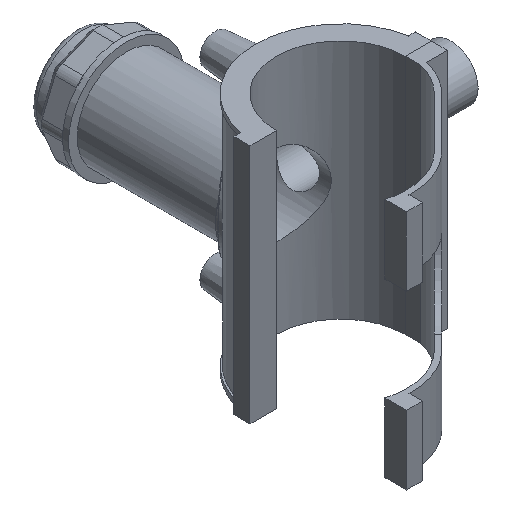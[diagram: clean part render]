
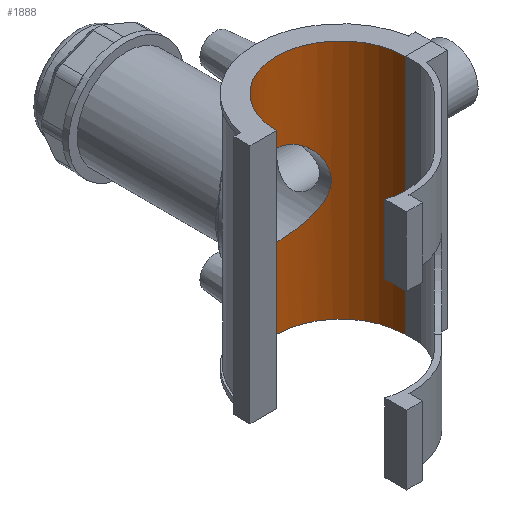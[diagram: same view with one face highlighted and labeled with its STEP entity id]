
A CAD part, isometric view. The second image highlights one B-rep face of the part: STEP entity #1888.
In plain terms, the highlighted cylindrical face has radius 31.55 mm (diameter 63.1 mm), a partial arc.
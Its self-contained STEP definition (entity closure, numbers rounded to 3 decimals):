
#50=FACE_BOUND('',#623,.T.);
#51=B_SPLINE_CURVE_WITH_KNOTS('',3,(#2711,#2712,#2713,#2714,#2715,#2716,
#2717,#2718,#2719,#2720,#2721,#2722,#2723,#2724,#2725,#2726,#2727,#2728,
#2729,#2730,#2731,#2732,#2733,#2734,#2735,#2736,#2737,#2738,#2739,#2740,
#2741,#2742,#2743,#2744,#2745,#2746,#2747,#2748,#2749,#2750,#2751,#2752,
#2753,#2754,#2755,#2756,#2757,#2758,#2759,#2760),.UNSPECIFIED.,.F.,.F.,
(4,2,2,2,2,2,2,2,2,2,2,2,2,2,2,2,2,2,2,2,2,2,2,2,4),(0.,0.389,
0.779,1.168,1.558,1.944,2.33,
2.716,3.102,3.488,3.875,4.261,
4.647,5.036,5.426,5.815,6.204,
6.594,6.983,7.373,7.762,8.148,
8.534,8.92,9.307),.UNSPECIFIED.);
#52=B_SPLINE_CURVE_WITH_KNOTS('',3,(#2761,#2762,#2763,#2764,#2765,#2766,
#2767,#2768,#2769,#2770,#2771,#2772,#2773,#2774,#2775,#2776,#2777,#2778),
 .UNSPECIFIED.,.F.,.F.,(4,2,2,2,2,2,2,2,4),(9.307,9.693,
10.079,10.465,10.851,11.241,11.63,
12.019,12.409),.UNSPECIFIED.);
#172=LINE('',#3656,#328);
#173=LINE('',#3660,#329);
#328=VECTOR('',#2543,10.);
#329=VECTOR('',#2546,10.);
#412=CYLINDRICAL_SURFACE('',#2095,31.55);
#501=FACE_OUTER_BOUND('',#622,.T.);
#622=EDGE_LOOP('',(#1595,#1596,#1597,#1598));
#623=EDGE_LOOP('',(#1599,#1600));
#719=CIRCLE('',#2092,31.55);
#720=CIRCLE('',#2094,31.55);
#739=VERTEX_POINT('',#2708);
#740=VERTEX_POINT('',#2710);
#867=VERTEX_POINT('',#3650);
#869=VERTEX_POINT('',#3654);
#870=VERTEX_POINT('',#3658);
#871=VERTEX_POINT('',#3659);
#921=EDGE_CURVE('',#740,#739,#51,.T.);
#922=EDGE_CURVE('',#739,#740,#52,.T.);
#1115=EDGE_CURVE('',#867,#869,#172,.T.);
#1116=EDGE_CURVE('',#870,#871,#173,.T.);
#1122=EDGE_CURVE('',#867,#871,#719,.T.);
#1123=EDGE_CURVE('',#870,#869,#720,.T.);
#1595=ORIENTED_EDGE('',*,*,#1116,.T.);
#1596=ORIENTED_EDGE('',*,*,#1122,.F.);
#1597=ORIENTED_EDGE('',*,*,#1115,.T.);
#1598=ORIENTED_EDGE('',*,*,#1123,.F.);
#1599=ORIENTED_EDGE('',*,*,#921,.T.);
#1600=ORIENTED_EDGE('',*,*,#922,.T.);
#1888=ADVANCED_FACE('',(#501,#50),#412,.F.);
#2092=AXIS2_PLACEMENT_3D('',#3669,#2554,#2555);
#2094=AXIS2_PLACEMENT_3D('',#3671,#2558,#2559);
#2095=AXIS2_PLACEMENT_3D('',#3674,#2562,#2563);
#2543=DIRECTION('',(0.,0.,-1.));
#2546=DIRECTION('',(0.,0.,1.));
#2554=DIRECTION('center_axis',(0.,0.,-1.));
#2555=DIRECTION('ref_axis',(-1.,0.,0.));
#2558=DIRECTION('center_axis',(0.,0.,1.));
#2559=DIRECTION('ref_axis',(-1.,0.,0.));
#2562=DIRECTION('center_axis',(0.,0.,1.));
#2563=DIRECTION('ref_axis',(-1.,0.,0.));
#2708=CARTESIAN_POINT('',(0.,31.55,-19.877));
#2710=CARTESIAN_POINT('',(-19.877,24.502,0.));
#2711=CARTESIAN_POINT('Ctrl Pts',(-19.877,24.502,0.));
#2712=CARTESIAN_POINT('Ctrl Pts',(-19.877,24.502,1.298));
#2713=CARTESIAN_POINT('Ctrl Pts',(-19.748,24.608,2.621));
#2714=CARTESIAN_POINT('Ctrl Pts',(-19.225,25.019,5.22));
#2715=CARTESIAN_POINT('Ctrl Pts',(-18.831,25.322,6.497));
#2716=CARTESIAN_POINT('Ctrl Pts',(-17.808,26.051,8.926));
#2717=CARTESIAN_POINT('Ctrl Pts',(-17.179,26.477,10.081));
#2718=CARTESIAN_POINT('Ctrl Pts',(-15.735,27.359,12.213));
#2719=CARTESIAN_POINT('Ctrl Pts',(-14.921,27.816,13.189));
#2720=CARTESIAN_POINT('Ctrl Pts',(-13.196,28.674,14.913));
#2721=CARTESIAN_POINT('Ctrl Pts',(-12.223,29.108,15.727));
#2722=CARTESIAN_POINT('Ctrl Pts',(-10.091,29.914,17.173));
#2723=CARTESIAN_POINT('Ctrl Pts',(-8.931,30.286,17.806));
#2724=CARTESIAN_POINT('Ctrl Pts',(-6.492,30.901,18.833));
#2725=CARTESIAN_POINT('Ctrl Pts',(-5.209,31.145,19.228));
#2726=CARTESIAN_POINT('Ctrl Pts',(-2.607,31.469,19.749));
#2727=CARTESIAN_POINT('Ctrl Pts',(-1.287,31.55,19.877));
#2728=CARTESIAN_POINT('Ctrl Pts',(1.287,31.55,19.877));
#2729=CARTESIAN_POINT('Ctrl Pts',(2.607,31.469,19.749));
#2730=CARTESIAN_POINT('Ctrl Pts',(5.209,31.145,19.228));
#2731=CARTESIAN_POINT('Ctrl Pts',(6.492,30.901,18.833));
#2732=CARTESIAN_POINT('Ctrl Pts',(8.931,30.286,17.806));
#2733=CARTESIAN_POINT('Ctrl Pts',(10.091,29.914,17.173));
#2734=CARTESIAN_POINT('Ctrl Pts',(12.223,29.108,15.727));
#2735=CARTESIAN_POINT('Ctrl Pts',(13.196,28.674,14.913));
#2736=CARTESIAN_POINT('Ctrl Pts',(14.921,27.816,13.189));
#2737=CARTESIAN_POINT('Ctrl Pts',(15.735,27.359,12.213));
#2738=CARTESIAN_POINT('Ctrl Pts',(17.179,26.477,10.081));
#2739=CARTESIAN_POINT('Ctrl Pts',(17.808,26.051,8.926));
#2740=CARTESIAN_POINT('Ctrl Pts',(18.831,25.322,6.497));
#2741=CARTESIAN_POINT('Ctrl Pts',(19.225,25.019,5.22));
#2742=CARTESIAN_POINT('Ctrl Pts',(19.748,24.608,2.621));
#2743=CARTESIAN_POINT('Ctrl Pts',(19.877,24.502,1.298));
#2744=CARTESIAN_POINT('Ctrl Pts',(19.877,24.502,-1.298));
#2745=CARTESIAN_POINT('Ctrl Pts',(19.748,24.608,-2.621));
#2746=CARTESIAN_POINT('Ctrl Pts',(19.225,25.019,-5.22));
#2747=CARTESIAN_POINT('Ctrl Pts',(18.831,25.322,-6.497));
#2748=CARTESIAN_POINT('Ctrl Pts',(17.808,26.051,-8.926));
#2749=CARTESIAN_POINT('Ctrl Pts',(17.179,26.477,-10.081));
#2750=CARTESIAN_POINT('Ctrl Pts',(15.735,27.359,-12.213));
#2751=CARTESIAN_POINT('Ctrl Pts',(14.921,27.816,-13.189));
#2752=CARTESIAN_POINT('Ctrl Pts',(13.196,28.674,-14.913));
#2753=CARTESIAN_POINT('Ctrl Pts',(12.223,29.108,-15.727));
#2754=CARTESIAN_POINT('Ctrl Pts',(10.091,29.914,-17.173));
#2755=CARTESIAN_POINT('Ctrl Pts',(8.931,30.286,-17.806));
#2756=CARTESIAN_POINT('Ctrl Pts',(6.492,30.901,-18.833));
#2757=CARTESIAN_POINT('Ctrl Pts',(5.209,31.145,-19.228));
#2758=CARTESIAN_POINT('Ctrl Pts',(2.607,31.469,-19.749));
#2759=CARTESIAN_POINT('Ctrl Pts',(1.287,31.55,-19.877));
#2760=CARTESIAN_POINT('Ctrl Pts',(0.,31.55,-19.877));
#2761=CARTESIAN_POINT('Ctrl Pts',(0.,31.55,-19.877));
#2762=CARTESIAN_POINT('Ctrl Pts',(-1.287,31.55,-19.877));
#2763=CARTESIAN_POINT('Ctrl Pts',(-2.607,31.469,-19.749));
#2764=CARTESIAN_POINT('Ctrl Pts',(-5.209,31.145,-19.228));
#2765=CARTESIAN_POINT('Ctrl Pts',(-6.492,30.901,-18.833));
#2766=CARTESIAN_POINT('Ctrl Pts',(-8.931,30.286,-17.806));
#2767=CARTESIAN_POINT('Ctrl Pts',(-10.091,29.914,-17.173));
#2768=CARTESIAN_POINT('Ctrl Pts',(-12.223,29.108,-15.727));
#2769=CARTESIAN_POINT('Ctrl Pts',(-13.196,28.674,-14.913));
#2770=CARTESIAN_POINT('Ctrl Pts',(-14.921,27.816,-13.189));
#2771=CARTESIAN_POINT('Ctrl Pts',(-15.735,27.359,-12.213));
#2772=CARTESIAN_POINT('Ctrl Pts',(-17.179,26.477,-10.081));
#2773=CARTESIAN_POINT('Ctrl Pts',(-17.808,26.051,-8.926));
#2774=CARTESIAN_POINT('Ctrl Pts',(-18.831,25.322,-6.497));
#2775=CARTESIAN_POINT('Ctrl Pts',(-19.225,25.019,-5.22));
#2776=CARTESIAN_POINT('Ctrl Pts',(-19.748,24.608,-2.621));
#2777=CARTESIAN_POINT('Ctrl Pts',(-19.877,24.502,-1.298));
#2778=CARTESIAN_POINT('Ctrl Pts',(-19.877,24.502,0.));
#3650=CARTESIAN_POINT('',(-31.55,0.05,59.055));
#3654=CARTESIAN_POINT('',(-31.55,0.05,-59.055));
#3656=CARTESIAN_POINT('',(-31.55,0.05,0.));
#3658=CARTESIAN_POINT('',(31.55,0.05,-59.055));
#3659=CARTESIAN_POINT('',(31.55,0.05,59.055));
#3660=CARTESIAN_POINT('',(31.55,0.05,0.));
#3669=CARTESIAN_POINT('Origin',(0.,0.,59.055));
#3671=CARTESIAN_POINT('Origin',(0.,0.,-59.055));
#3674=CARTESIAN_POINT('Origin',(0.,0.,0.));
